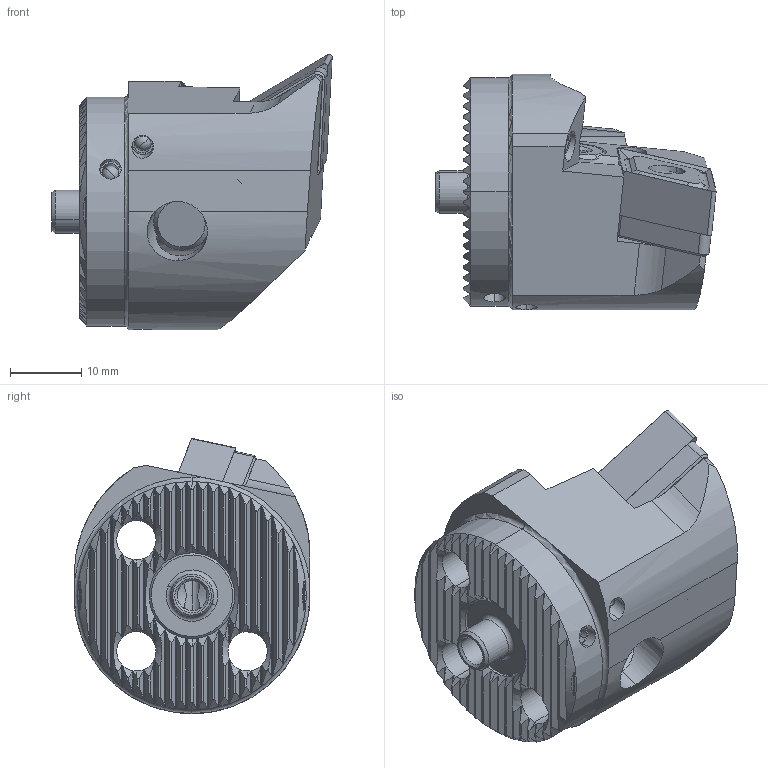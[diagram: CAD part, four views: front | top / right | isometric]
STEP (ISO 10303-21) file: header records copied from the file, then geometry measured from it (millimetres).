
FILE_DESCRIPTION (( 'STEP AP214' ), '1' );
FILE_NAME ('WK2.PDF.LUB.035.STEP', '2020-09-16T12:22:03', ( '' ), ( '' ), 'SwSTEP 2.0', 'SolidWorks 2017', '' );
FILE_SCHEMA (( 'AUTOMOTIVE_DESIGN' ));
Length unit declared in the file: millimetre
Products named in the file (9): WK2.PDF.LUB.035; WCD-ER4.101.017_A; WKX-ER1.004.005_A_PreviewCfg; WDF-ER3.101.000_A; WK2-ER1.001.012_A_Fertigbearbeitung; DNMG150604; WDF-ER2.101.003_A; WK2-PDF.LUB.035_A; KVT_MB_600_030
Assembly tree (11 placements, depth 2):
  WK2.PDF.LUB.035
    WK2-PDF.LUB.035_A
    WKX-ER1.004.005_A_PreviewCfg  x2
    WK2-ER1.001.012_A_Fertigbearbeitung
    KVT_MB_600_030  x3
    WDF-ER2.101.003_A
    DNMG150604
    WDF-ER3.101.000_A
    WCD-ER4.101.017_A
Bounding box: 39.21 x 33 x 38.51 mm (x, y, z)
Volume: 17583.7 mm3; surface area: 11390.8 mm2
Topology: 14 solids, 14 shells, 620 faces, 1638 edges, 1018 vertices
Faces by surface type: plane 235, cylinder 200, cone 152, torus 15, bspline 12, sphere 6
Entity records: 19318 total; most frequent: CARTESIAN_POINT 6137, ORIENTED_EDGE 2894, DIRECTION 2376, EDGE_CURVE 1447, VERTEX_POINT 919, AXIS2_PLACEMENT_3D 896, VECTOR 584, LINE 584
